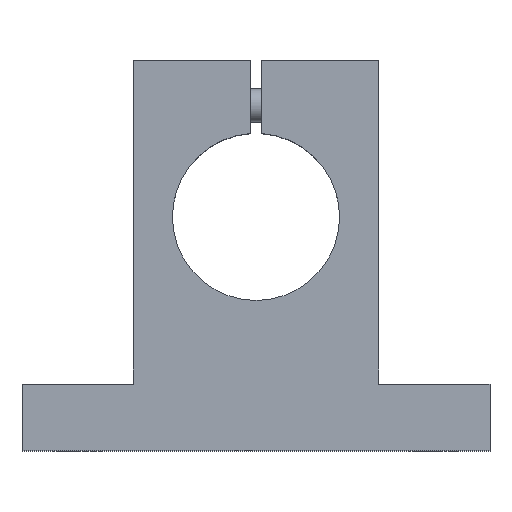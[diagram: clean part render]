
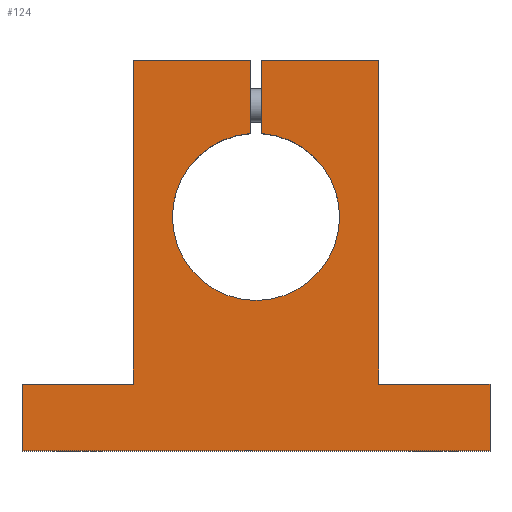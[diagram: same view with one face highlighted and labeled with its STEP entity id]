
A CAD part, top view. The second image highlights one B-rep face of the part: STEP entity #124.
In plain terms, the highlighted planar face has unit normal (0, 0, 1).
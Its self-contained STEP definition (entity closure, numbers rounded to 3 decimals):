
#124=ADVANCED_FACE('',(#160),#161,.T.);
#160=FACE_OUTER_BOUND('',#248,.T.);
#161=PLANE('',#249);
#248=EDGE_LOOP('',(#341,#342,#343,#344,#345,#346,#347,#348,#349,#350,#351,#352));
#249=AXIS2_PLACEMENT_3D('',#353,#354,#355);
#341=ORIENTED_EDGE('',*,*,#580,.F.);
#342=ORIENTED_EDGE('',*,*,#578,.F.);
#343=ORIENTED_EDGE('',*,*,#581,.F.);
#344=ORIENTED_EDGE('',*,*,#582,.F.);
#345=ORIENTED_EDGE('',*,*,#583,.F.);
#346=ORIENTED_EDGE('',*,*,#584,.F.);
#347=ORIENTED_EDGE('',*,*,#585,.F.);
#348=ORIENTED_EDGE('',*,*,#586,.F.);
#349=ORIENTED_EDGE('',*,*,#587,.F.);
#350=ORIENTED_EDGE('',*,*,#588,.F.);
#351=ORIENTED_EDGE('',*,*,#589,.F.);
#352=ORIENTED_EDGE('',*,*,#590,.F.);
#353=CARTESIAN_POINT('',(0.0,0.0,28.0));
#354=DIRECTION('',(0.0,0.0,1.0));
#355=DIRECTION('',(1.0,0.0,0.0));
#578=EDGE_CURVE('',#649,#651,#652,.T.);
#580=EDGE_CURVE('',#651,#654,#655,.T.);
#581=EDGE_CURVE('',#656,#649,#657,.T.);
#582=EDGE_CURVE('',#658,#656,#659,.T.);
#583=EDGE_CURVE('',#660,#658,#661,.T.);
#584=EDGE_CURVE('',#662,#660,#663,.T.);
#585=EDGE_CURVE('',#664,#662,#665,.T.);
#586=EDGE_CURVE('',#666,#664,#667,.T.);
#587=EDGE_CURVE('',#668,#666,#669,.T.);
#588=EDGE_CURVE('',#670,#668,#671,.T.);
#589=EDGE_CURVE('',#672,#670,#673,.T.);
#590=EDGE_CURVE('',#654,#672,#674,.T.);
#649=VERTEX_POINT('',#772);
#651=VERTEX_POINT('',#775);
#652=LINE('',#776,#777);
#654=VERTEX_POINT('',#780);
#655=LINE('',#781,#782);
#656=VERTEX_POINT('',#783);
#657=LINE('',#784,#785);
#658=VERTEX_POINT('',#786);
#659=LINE('',#787,#788);
#660=VERTEX_POINT('',#789);
#661=LINE('',#790,#791);
#662=VERTEX_POINT('',#792);
#663=LINE('',#793,#794);
#664=VERTEX_POINT('',#795);
#665=LINE('',#796,#797);
#666=VERTEX_POINT('',#798);
#667=LINE('',#799,#800);
#668=VERTEX_POINT('',#801);
#669=CIRCLE('',#802,15.0);
#670=VERTEX_POINT('',#803);
#671=LINE('',#804,#805);
#672=VERTEX_POINT('',#806);
#673=LINE('',#807,#808);
#674=LINE('',#809,#810);
#772=CARTESIAN_POINT('',(-42.0,-42.0,28.0));
#775=CARTESIAN_POINT('',(-42.0,-30.0,28.0));
#776=CARTESIAN_POINT('',(-42.0,-42.0,28.0));
#777=VECTOR('',#977,1.0);
#780=CARTESIAN_POINT('',(-22.0,-30.0,28.0));
#781=CARTESIAN_POINT('',(-42.0,-30.0,28.0));
#782=VECTOR('',#979,1.0);
#783=CARTESIAN_POINT('',(42.0,-42.0,28.0));
#784=CARTESIAN_POINT('',(42.0,-42.0,28.0));
#785=VECTOR('',#980,1.0);
#786=CARTESIAN_POINT('',(42.0,-30.0,28.0));
#787=CARTESIAN_POINT('',(42.0,-30.0,28.0));
#788=VECTOR('',#981,1.0);
#789=CARTESIAN_POINT('',(22.0,-30.0,28.0));
#790=CARTESIAN_POINT('',(22.0,-30.0,28.0));
#791=VECTOR('',#982,1.0);
#792=CARTESIAN_POINT('',(22.0,28.0,28.0));
#793=CARTESIAN_POINT('',(22.0,28.0,28.0));
#794=VECTOR('',#983,1.0);
#795=CARTESIAN_POINT('',(1.0,28.0,28.0));
#796=CARTESIAN_POINT('',(1.0,28.0,28.0));
#797=VECTOR('',#984,1.0);
#798=CARTESIAN_POINT('',(1.,14.967,28.0));
#799=CARTESIAN_POINT('',(1.0,14.967,28.0));
#800=VECTOR('',#985,1.0);
#801=CARTESIAN_POINT('',(-1.0,14.967,28.0));
#802=AXIS2_PLACEMENT_3D('',#986,#987,#988);
#803=CARTESIAN_POINT('',(-1.0,28.0,28.0));
#804=CARTESIAN_POINT('',(-1.0,28.0,28.0));
#805=VECTOR('',#989,1.0);
#806=CARTESIAN_POINT('',(-22.0,28.0,28.0));
#807=CARTESIAN_POINT('',(-22.0,28.0,28.0));
#808=VECTOR('',#990,1.0);
#809=CARTESIAN_POINT('',(-22.0,-30.0,28.0));
#810=VECTOR('',#991,1.0);
#977=DIRECTION('',(0.0,1.0,0.0));
#979=DIRECTION('',(1.0,0.0,0.0));
#980=DIRECTION('',(-1.0,0.0,0.0));
#981=DIRECTION('',(0.0,-1.0,0.0));
#982=DIRECTION('',(1.0,0.0,0.0));
#983=DIRECTION('',(0.0,-1.0,0.0));
#984=DIRECTION('',(1.0,0.0,0.0));
#985=DIRECTION('',(0.,1.0,0.0));
#986=CARTESIAN_POINT('',(0.0,0.0,28.0));
#987=DIRECTION('',(0.0,0.0,1.0));
#988=DIRECTION('',(1.0,0.0,0.0));
#989=DIRECTION('',(0.,-1.0,0.0));
#990=DIRECTION('',(1.0,0.0,0.0));
#991=DIRECTION('',(0.0,1.0,0.0));
